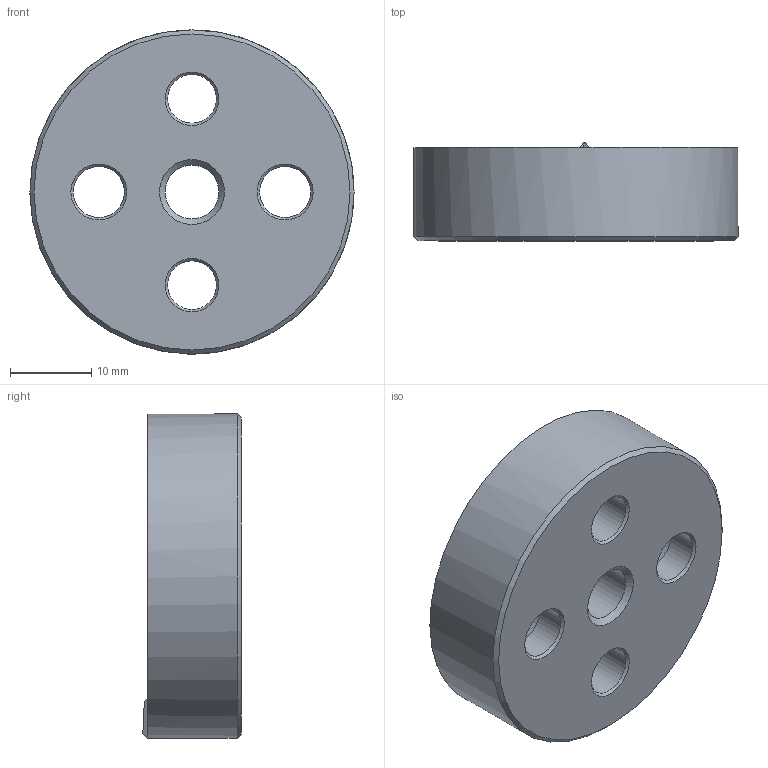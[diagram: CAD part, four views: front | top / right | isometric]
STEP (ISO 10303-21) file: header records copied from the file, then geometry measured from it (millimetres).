
FILE_DESCRIPTION( ( 'STEP AP203' ), '1' );
FILE_NAME( 'C:/Temp/Ganter_Step_05_03_2020/data/3_2/gn187_4/gn187_4_st/Serrated locking plate GN 187.4-40-60-A-ST.stp', '2020-03-13T05:25:34', ( 'License CC BY-ND 4.0' ), ( 'CADENAS' ), ' ', 'PARTsolutions', ' ' );
FILE_SCHEMA( ( 'CONFIG_CONTROL_DESIGN' ) );
Length unit declared in the file: millimetre
Products named in the file (1): _Serrated locking plate GN 187.4-40-60-A-ST
Bounding box: 40 x 12.13 x 40 mm (x, y, z)
Volume: 11014.1 mm3; surface area: 4898.6 mm2
Topology: 1 solids, 1 shells, 33 faces, 85 edges, 54 vertices
Faces by surface type: cone 12, cylinder 12, plane 9
Full cylindrical faces by diameter (mm): 6 x2, 6.3 x2, 6.647 x1, 11 x2, 40 x1
Entity records: 1044 total; most frequent: CARTESIAN_POINT 250, DIRECTION 166, ORIENTED_EDGE 128, AXIS2_PLACEMENT_3D 78, EDGE_CURVE 64, EDGE_LOOP 60, VERTEX_POINT 50, FACE_OUTER_BOUND 41
